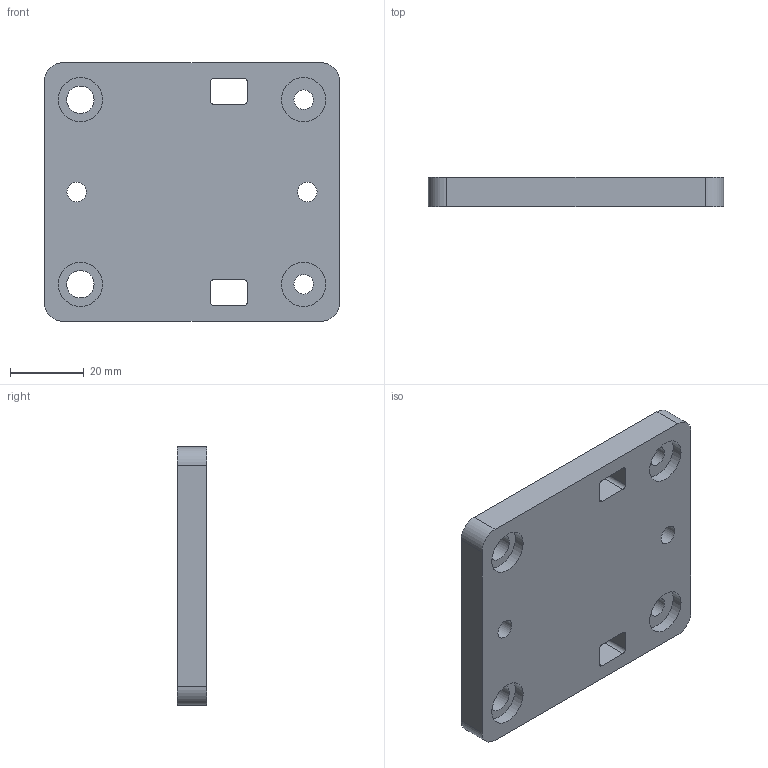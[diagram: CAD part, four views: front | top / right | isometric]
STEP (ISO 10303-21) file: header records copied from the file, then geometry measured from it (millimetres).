
FILE_DESCRIPTION(/* description */ (''),/* implementation_level */ '2;1');
FILE_NAME(/* name */ 'Intersection Top.step',/* time_stamp */ '2025-04-22T12:35:38+05:30',/* author */ (''),/* organization */ (''),/* preprocessor_version */ 'ST-DEVELOPER v20.1',/* originating_system */ 'Autodesk Translation Framework v14.4.0.0',/* authorisation */ '');
FILE_SCHEMA (('AUTOMOTIVE_DESIGN { 1 0 10303 214 3 1 1 }'));
Length unit declared in the file: millimetre
Products named in the file (1): Intersection Top
Bounding box: 80 x 8 x 70 mm (x, y, z)
Volume: 41161.2 mm3; surface area: 14497.6 mm2
Topology: 1 solids, 1 shells, 40 faces, 102 edges, 68 vertices
Faces by surface type: cylinder 22, plane 18
Full cylindrical faces by diameter (mm): 5.3 x4, 7.4 x2, 12 x4
Entity records: 1295 total; most frequent: DIRECTION 228, CARTESIAN_POINT 211, ORIENTED_EDGE 204, EDGE_CURVE 102, AXIS2_PLACEMENT_3D 85, VERTEX_POINT 68, EDGE_LOOP 60, LINE 58
